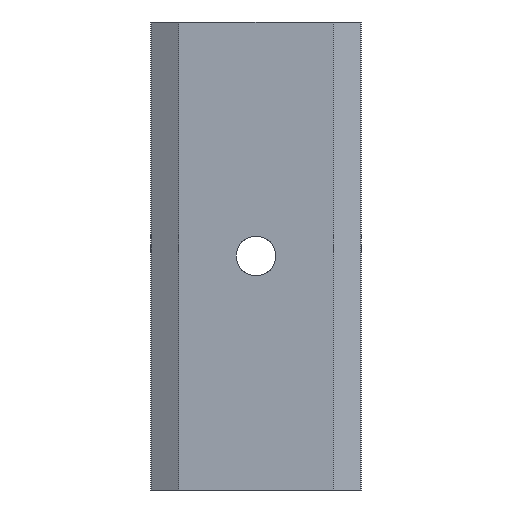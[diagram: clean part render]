
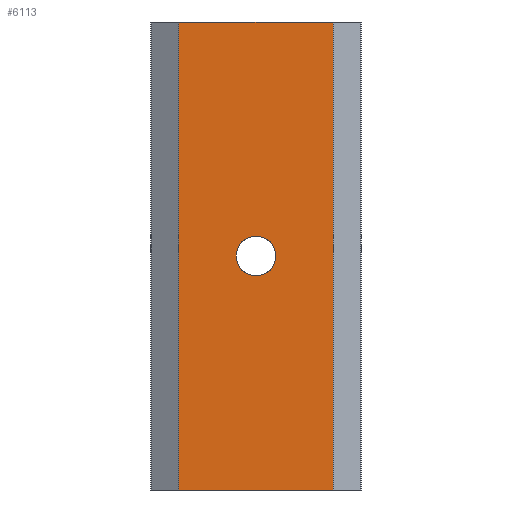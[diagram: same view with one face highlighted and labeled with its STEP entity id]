
A CAD part, front view. The second image highlights one B-rep face of the part: STEP entity #6113.
In plain terms, the highlighted planar face has unit normal (0, -1, 0) as drawn and (0, 1, 0) by its records, which use the part's own axes.
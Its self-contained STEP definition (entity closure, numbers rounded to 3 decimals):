
#4 = ORIENTED_EDGE ( 'NONE', *, *, #6050, .F. ) ;
#1993 = CARTESIAN_POINT ( 'NONE',  ( 0., 0., 54.25 ) ) ;
#1996 = CARTESIAN_POINT ( 'NONE',  ( 0., 0., 45.75 ) ) ;
#2218 = DIRECTION ( 'NONE',  ( 0., 0., -1. ) ) ;
#2219 = DIRECTION ( 'NONE',  ( 0., -1., 0. ) ) ;
#2220 = CARTESIAN_POINT ( 'NONE',  ( 0., 0., 50. ) ) ;
#2221 = AXIS2_PLACEMENT_3D ( 'NONE', #2220, #2219, #2218 ) ;
#2228 = CIRCLE ( 'NONE', #2221, 4.25 ) ;
#2392 = CARTESIAN_POINT ( 'NONE',  ( -16.5, 0., 0. ) ) ;
#2421 = CARTESIAN_POINT ( 'NONE',  ( -16.5, 0., 100. ) ) ;
#2428 = CARTESIAN_POINT ( 'NONE',  ( 16.5, 0., 100. ) ) ;
#2429 = CARTESIAN_POINT ( 'NONE',  ( 16.5, 0., 100. ) ) ;
#2445 = LINE ( 'NONE', #2485, #2484 ) ;
#2478 = DIRECTION ( 'NONE',  ( 0., 0., -1. ) ) ;
#2479 = VECTOR ( 'NONE', #2478, 1000. ) ;
#2480 = LINE ( 'NONE', #2429, #2479 ) ;
#2482 = CARTESIAN_POINT ( 'NONE',  ( 16.5, 0., 0. ) ) ;
#2483 = DIRECTION ( 'NONE',  ( 0., 0., -1. ) ) ;
#2484 = VECTOR ( 'NONE', #2483, 1000. ) ;
#2485 = CARTESIAN_POINT ( 'NONE',  ( -16.5, 0., 100. ) ) ;
#2513 = FACE_BOUND ( 'NONE', #6057, .T. ) ;
#2522 = DIRECTION ( 'NONE',  ( -1., 0., 0. ) ) ;
#2523 = VECTOR ( 'NONE', #2522, 1000. ) ;
#2524 = CARTESIAN_POINT ( 'NONE',  ( 16.5, 0., 0. ) ) ;
#2530 = AXIS2_PLACEMENT_3D ( 'NONE', #2564, #2563, #2562 ) ;
#2531 = LINE ( 'NONE', #2524, #2523 ) ;
#2555 = CIRCLE ( 'NONE', #2610, 4.25 ) ;
#2562 = DIRECTION ( 'NONE',  ( 0., 0., -1. ) ) ;
#2563 = DIRECTION ( 'NONE',  ( 0., -1., 0. ) ) ;
#2564 = CARTESIAN_POINT ( 'NONE',  ( 16.5, 0., 100. ) ) ;
#2568 = FACE_OUTER_BOUND ( 'NONE', #5988, .T. ) ;
#2574 = PLANE ( 'NONE',  #2530 ) ;
#2587 = DIRECTION ( 'NONE',  ( 0., 0., -1. ) ) ;
#2588 = DIRECTION ( 'NONE',  ( 0., -1., 0. ) ) ;
#2589 = CARTESIAN_POINT ( 'NONE',  ( 0., 0., 50. ) ) ;
#2610 = AXIS2_PLACEMENT_3D ( 'NONE', #2589, #2588, #2587 ) ;
#3143 = DIRECTION ( 'NONE',  ( -1., 0., 0. ) ) ;
#3144 = VECTOR ( 'NONE', #3143, 1000. ) ;
#3147 = CARTESIAN_POINT ( 'NONE',  ( 16.5, 0., 100. ) ) ;
#3148 = LINE ( 'NONE', #3147, #3144 ) ;
#5406 = EDGE_CURVE ( 'NONE', #5413, #5407, #2228, .T. ) ;
#5407 = VERTEX_POINT ( 'NONE', #1996 ) ;
#5413 = VERTEX_POINT ( 'NONE', #1993 ) ;
#5988 = EDGE_LOOP ( 'NONE', ( #6098, #4, #6058, #6142 ) ) ;
#6038 = VERTEX_POINT ( 'NONE', #2392 ) ;
#6049 = VERTEX_POINT ( 'NONE', #2428 ) ;
#6050 = EDGE_CURVE ( 'NONE', #6052, #6038, #2445, .T. ) ;
#6052 = VERTEX_POINT ( 'NONE', #2421 ) ;
#6053 = EDGE_CURVE ( 'NONE', #6049, #6054, #2480, .T. ) ;
#6054 = VERTEX_POINT ( 'NONE', #2482 ) ;
#6057 = EDGE_LOOP ( 'NONE', ( #6100, #6109 ) ) ;
#6058 = ORIENTED_EDGE ( 'NONE', *, *, #6487, .F. ) ;
#6098 = ORIENTED_EDGE ( 'NONE', *, *, #6102, .T. ) ;
#6100 = ORIENTED_EDGE ( 'NONE', *, *, #6130, .T. ) ;
#6102 = EDGE_CURVE ( 'NONE', #6054, #6038, #2531, .T. ) ;
#6109 = ORIENTED_EDGE ( 'NONE', *, *, #5406, .T. ) ;
#6113 = ADVANCED_FACE ( 'NONE', ( #2513, #2568 ), #2574, .F. ) ;
#6130 = EDGE_CURVE ( 'NONE', #5407, #5413, #2555, .T. ) ;
#6142 = ORIENTED_EDGE ( 'NONE', *, *, #6053, .T. ) ;
#6487 = EDGE_CURVE ( 'NONE', #6049, #6052, #3148, .T. ) ;
